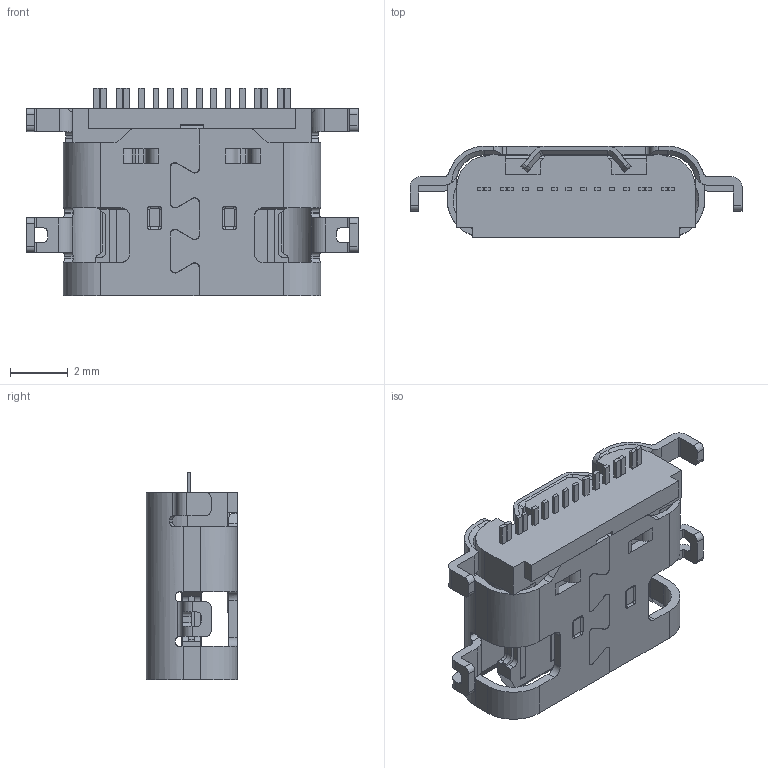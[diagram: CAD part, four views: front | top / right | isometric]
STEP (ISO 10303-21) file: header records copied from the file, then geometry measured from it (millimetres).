
FILE_DESCRIPTION (( 'STEP AP203' ), '1' );
FILE_NAME ('GT-USB-9014C.stp', '2025-01-13T09:44:03', ( '' ), ( '' ), 'SwSTEP 2.0', 'SolidWorks 2023', '' );
FILE_SCHEMA (( 'CONFIG_CONTROL_DESIGN' ));
Length unit declared in the file: millimetre
Products named in the file (1): GT-USB-9014C
Bounding box: 11.54 x 3.18 x 7.2 mm (x, y, z)
Volume: 94.2 mm3; surface area: 432.7 mm2
Topology: 1 solids, 1 shells, 994 faces, 2855 edges, 1864 vertices
Faces by surface type: plane 695, cylinder 191, bspline 94, cone 14
Entity records: 36595 total; most frequent: CARTESIAN_POINT 11347, ORIENTED_EDGE 5710, DIRECTION 4506, EDGE_CURVE 2855, LINE 2140, VECTOR 2140, VERTEX_POINT 1864, AXIS2_PLACEMENT_3D 1183
